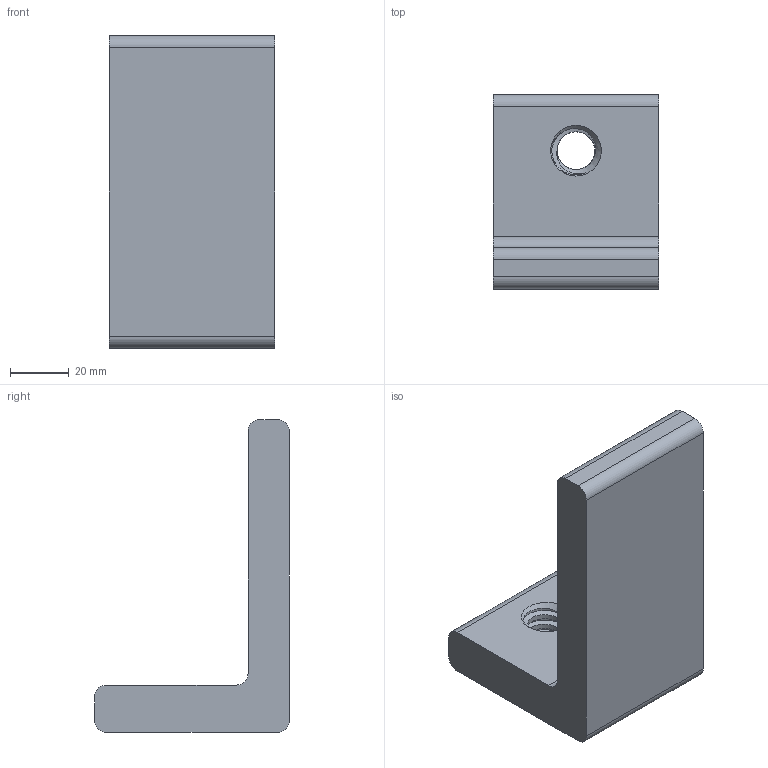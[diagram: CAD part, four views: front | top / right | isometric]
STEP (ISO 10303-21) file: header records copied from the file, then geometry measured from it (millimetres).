
FILE_DESCRIPTION(('Open CASCADE Model'),'2;1');
FILE_NAME('Open CASCADE Shape Model','2026-09-21T16:06:42',('Author'),( 'Open CASCADE'),'Open CASCADE STEP processor 7.9','Open CASCADE 7.9' ,'Unknown');
FILE_SCHEMA(('AUTOMOTIVE_DESIGN { 1 0 10303 214 1 1 1 1 }'));
Length unit declared in the file: millimetre
Products named in the file (1): Open CASCADE STEP translator 7.9 3
Bounding box: 56 x 66 x 106 mm (x, y, z)
Volume: 124943.2 mm3; surface area: 25240.8 mm2
Topology: 1 solids, 1 shells, 72 faces, 193 edges, 127 vertices
Faces by surface type: cylinder 34, plane 16, bspline 15, cone 7
Full cylindrical faces by diameter (mm): 5 x16, 12.8 x2
Entity records: 20456 total; most frequent: CARTESIAN_POINT 17083, DIRECTION 454, ORIENTED_EDGE 386, PCURVE 386, DEFINITIONAL_REPRESENTATION 386, B_SPLINE_CURVE_WITH_KNOTS 266, LINE 258, VECTOR 258
